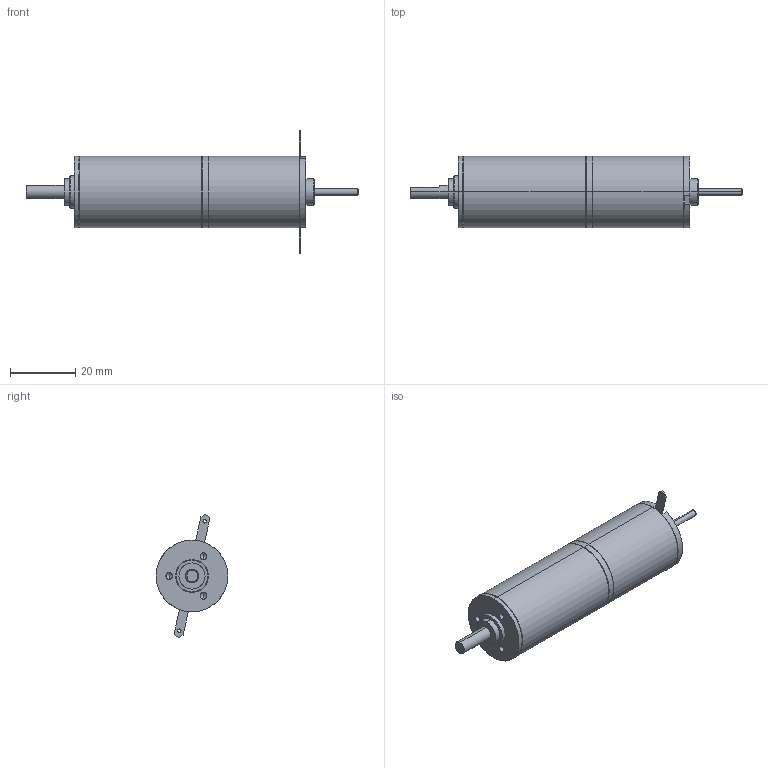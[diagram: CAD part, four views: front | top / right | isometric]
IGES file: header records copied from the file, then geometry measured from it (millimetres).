
Start section: SolidWorks IGES file using analytic representation for surfaces
Global section: file name: \\Uranus\R&D\plans\CATALOGUES\Topstock_Piece_IGES\AMax22CLL_+_GP022C 3etages.IGS; native system: SolidWorks 2008; preprocessor: SolidWorks 2008; author: JUL; date: 090325.183535; units: millimetre
Bounding box: 101.95 x 22 x 37.64 mm (x, y, z)
Surface area: 7972.3 mm2 (no closed solid volume)
Topology: 0 solids, 0 shells, 147 faces, 1709 edges, 1683 vertices
Faces by surface type: revolution 106, bspline 41
